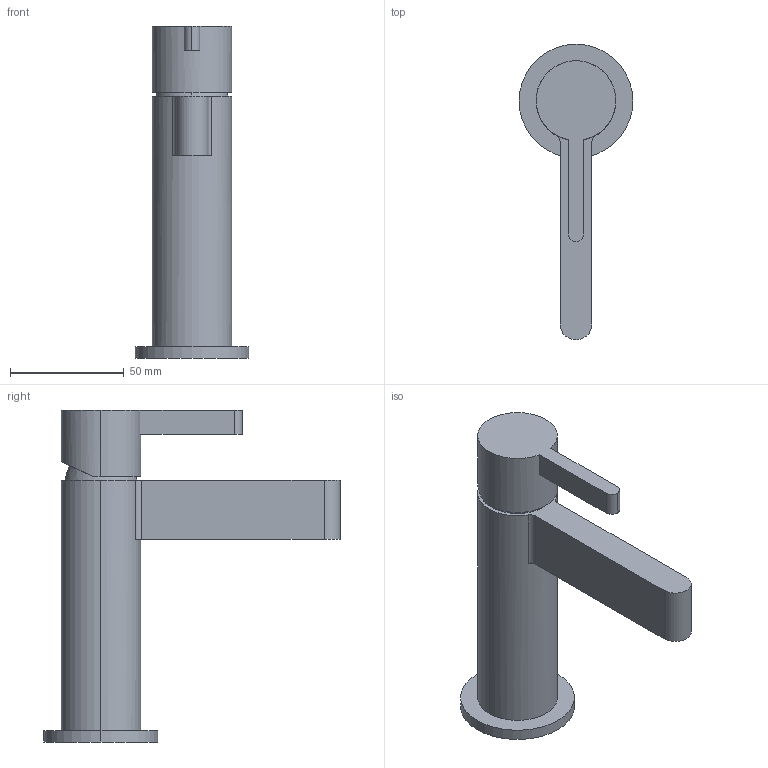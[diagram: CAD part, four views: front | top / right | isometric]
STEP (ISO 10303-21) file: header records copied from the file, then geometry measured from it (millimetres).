
FILE_DESCRIPTION(('FreeCAD Model'),'2;1');
FILE_NAME('Open CASCADE Shape Model','2024-07-23T11:29:46',('Author'),( ''),'Open CASCADE STEP processor 7.6','FreeCAD','Unknown');
FILE_SCHEMA(('AUTOMOTIVE_DESIGN { 1 0 10303 214 1 1 1 1 }'));
Length unit declared in the file: millimetre
Products named in the file (3): TopLevelAssembly; Wyciąganie001; Połączona geometria bryłowa
Assembly tree (2 placements, depth 2):
  TopLevelAssembly
    Wyciąganie001
    Połączona geometria bryłowa
Bounding box: 50 x 130 x 145.8 mm (x, y, z)
Volume: 179285.5 mm3; surface area: 30890.9 mm2
Topology: 2 solids, 2 shells, 26 faces, 63 edges, 42 vertices
Faces by surface type: plane 13, cylinder 11, bspline 2
Entity records: 885 total; most frequent: CARTESIAN_POINT 184, DIRECTION 149, ORIENTED_EDGE 126, EDGE_CURVE 63, AXIS2_PLACEMENT_3D 61, VERTEX_POINT 42, CIRCLE 33, FACE_BOUND 27
